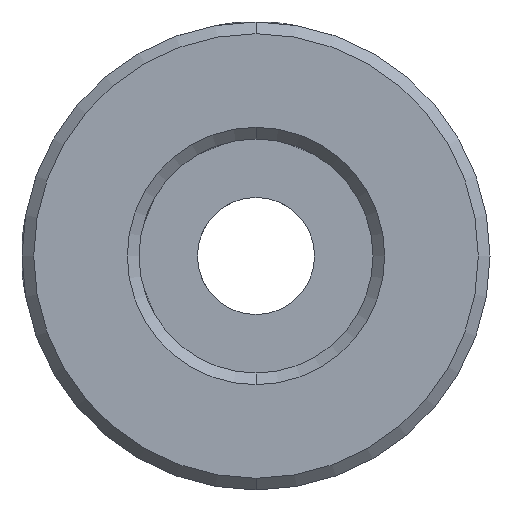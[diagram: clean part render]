
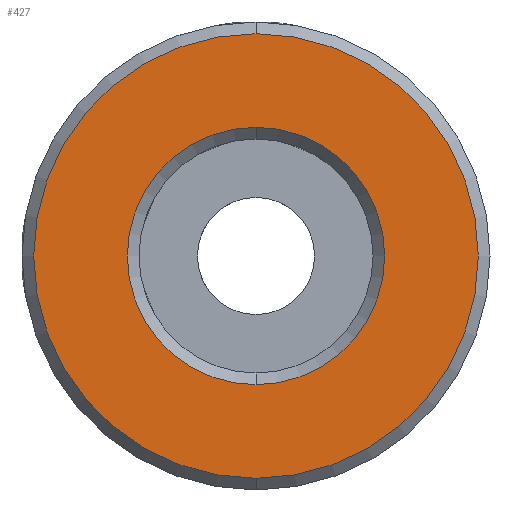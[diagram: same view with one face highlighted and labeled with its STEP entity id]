
A CAD part, front view. The second image highlights one B-rep face of the part: STEP entity #427.
In plain terms, the highlighted planar face has unit normal (0, -1, 0).
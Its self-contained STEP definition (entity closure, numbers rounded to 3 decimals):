
#35 = CARTESIAN_POINT ( 'NONE',  ( -10.188, -0.277, 0.046 ) ) ;
#112 = CIRCLE ( 'NONE', #3179, 9.5 ) ;
#182 = AXIS2_PLACEMENT_3D ( 'NONE', #891, #2302, #324 ) ;
#324 = DIRECTION ( 'NONE',  ( 0., 0., 1. ) ) ;
#427 = ADVANCED_FACE ( 'NONE', ( #1756, #2027 ), #1133, .F. ) ;
#520 = EDGE_LOOP ( 'NONE', ( #1697, #1381 ) ) ;
#793 = DIRECTION ( 'NONE',  ( 0., -1., 0. ) ) ;
#891 = CARTESIAN_POINT ( 'NONE',  ( -10.188, -0.277, 0.046 ) ) ;
#1015 = CIRCLE ( 'NONE', #3563, 5.5 ) ;
#1077 = CARTESIAN_POINT ( 'NONE',  ( -10.188, -0.277, 0.046 ) ) ;
#1097 = AXIS2_PLACEMENT_3D ( 'NONE', #1627, #2481, #1376 ) ;
#1126 = VERTEX_POINT ( 'NONE', #1225 ) ;
#1133 = PLANE ( 'NONE',  #182 ) ;
#1171 = EDGE_CURVE ( 'NONE', #3385, #1126, #2238, .T. ) ;
#1225 = CARTESIAN_POINT ( 'NONE',  ( -10.188, -0.277, 5.546 ) ) ;
#1258 = CARTESIAN_POINT ( 'NONE',  ( -10.188, -0.277, -9.454 ) ) ;
#1295 = EDGE_CURVE ( 'NONE', #1126, #3385, #1015, .T. ) ;
#1376 = DIRECTION ( 'NONE',  ( 0., 0., 1. ) ) ;
#1381 = ORIENTED_EDGE ( 'NONE', *, *, #3452, .T. ) ;
#1466 = DIRECTION ( 'NONE',  ( 0., 1., 0. ) ) ;
#1473 = DIRECTION ( 'NONE',  ( 0., 0., 1. ) ) ;
#1507 = CARTESIAN_POINT ( 'NONE',  ( -10.188, -0.277, 9.546 ) ) ;
#1627 = CARTESIAN_POINT ( 'NONE',  ( -10.188, -0.277, 0.046 ) ) ;
#1697 = ORIENTED_EDGE ( 'NONE', *, *, #2248, .T. ) ;
#1756 = FACE_OUTER_BOUND ( 'NONE', #520, .T. ) ;
#2027 = FACE_BOUND ( 'NONE', #3532, .T. ) ;
#2034 = CIRCLE ( 'NONE', #1097, 9.5 ) ;
#2046 = DIRECTION ( 'NONE',  ( 0., 1., 0. ) ) ;
#2162 = ORIENTED_EDGE ( 'NONE', *, *, #1295, .T. ) ;
#2238 = CIRCLE ( 'NONE', #2969, 5.5 ) ;
#2248 = EDGE_CURVE ( 'NONE', #2501, #2544, #2034, .T. ) ;
#2275 = CARTESIAN_POINT ( 'NONE',  ( -10.188, -0.277, 0.046 ) ) ;
#2302 = DIRECTION ( 'NONE',  ( 0., 1., 0. ) ) ;
#2481 = DIRECTION ( 'NONE',  ( 0., -1., 0. ) ) ;
#2501 = VERTEX_POINT ( 'NONE', #1507 ) ;
#2536 = DIRECTION ( 'NONE',  ( 0., 0., 1. ) ) ;
#2544 = VERTEX_POINT ( 'NONE', #1258 ) ;
#2601 = DIRECTION ( 'NONE',  ( 0., 0., 1. ) ) ;
#2969 = AXIS2_PLACEMENT_3D ( 'NONE', #2275, #2046, #1473 ) ;
#3037 = ORIENTED_EDGE ( 'NONE', *, *, #1171, .T. ) ;
#3179 = AXIS2_PLACEMENT_3D ( 'NONE', #1077, #793, #2536 ) ;
#3364 = CARTESIAN_POINT ( 'NONE',  ( -10.188, -0.277, -5.454 ) ) ;
#3385 = VERTEX_POINT ( 'NONE', #3364 ) ;
#3452 = EDGE_CURVE ( 'NONE', #2544, #2501, #112, .T. ) ;
#3532 = EDGE_LOOP ( 'NONE', ( #3037, #2162 ) ) ;
#3563 = AXIS2_PLACEMENT_3D ( 'NONE', #35, #1466, #2601 ) ;
